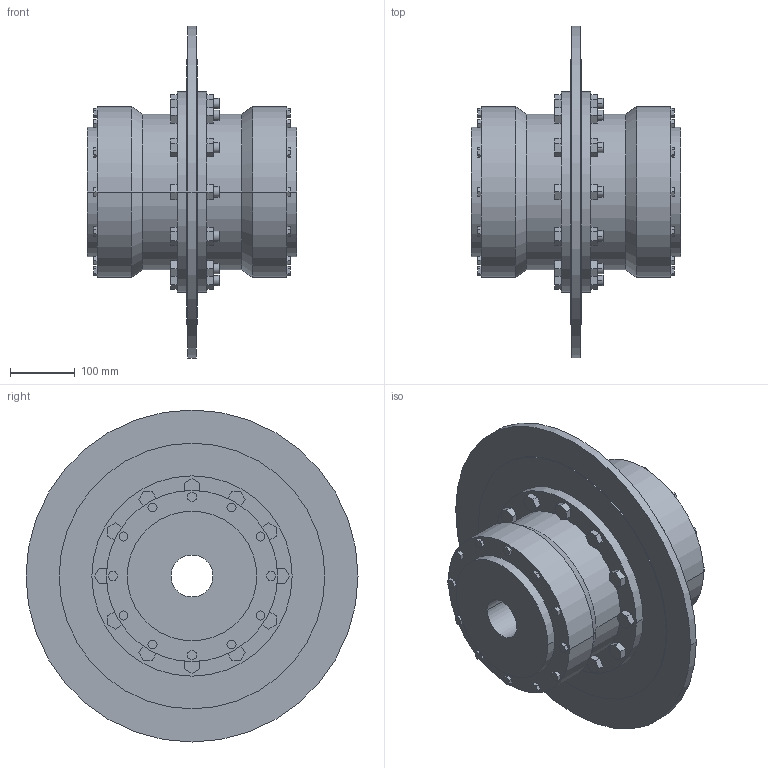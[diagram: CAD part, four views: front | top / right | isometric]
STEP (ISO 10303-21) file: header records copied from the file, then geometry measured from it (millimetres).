
FILE_DESCRIPTION((''),'2;1');
FILE_NAME('A19730500-0_ASM','2019-05-23T',('AB_Roschiwal'),('RENK AG'),'PRO/ENGINEER BY PARAMETRIC TECHNOLOGY CORPORATION, 2015440','PRO/ENGINEER BY PARAMETRIC TECHNOLOGY CORPORATION, 2015440','');
FILE_SCHEMA(('CONFIG_CONTROL_DESIGN'));
Length unit declared in the file: millimetre
Products named in the file (4): SBKT125_GEHAEUSE; SBKT125_NABE; SBKT125_BREMSSCHEIBE; A19730500-0_ASM
Assembly tree (4 placements, depth 2):
  A19730500-0_ASM
    SBKT125_GEHAEUSE
    SBKT125_NABE  x2
    SBKT125_BREMSSCHEIBE
Bounding box: 324 x 514 x 514 mm (x, y, z)
Volume: 15978006.3 mm3; surface area: 1407198.2 mm2
Topology: 4 solids, 4 shells, 470 faces, 1156 edges, 768 vertices
Faces by surface type: plane 370, cylinder 96, cone 4
Entity records: 13604 total; most frequent: CARTESIAN_POINT 2350, ORIENTED_EDGE 2264, DIRECTION 2240, EDGE_CURVE 1132, VECTOR 956, LINE 956, VERTEX_POINT 752, AXIS2_PLACEMENT_3D 642
